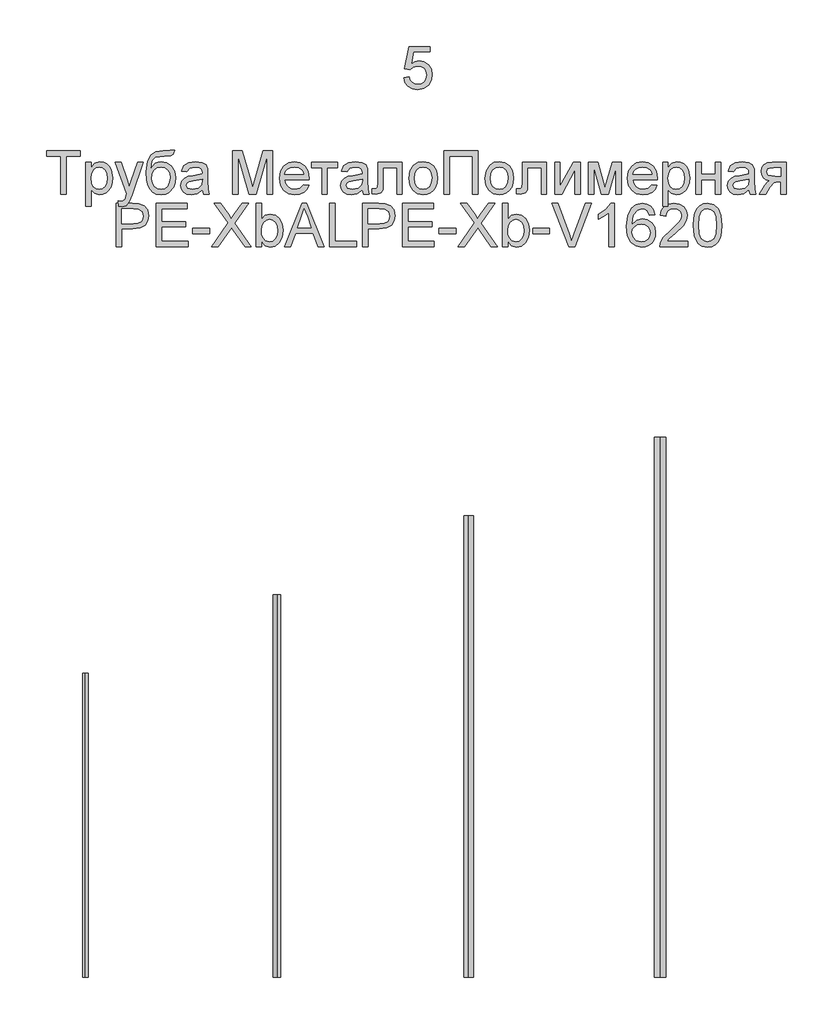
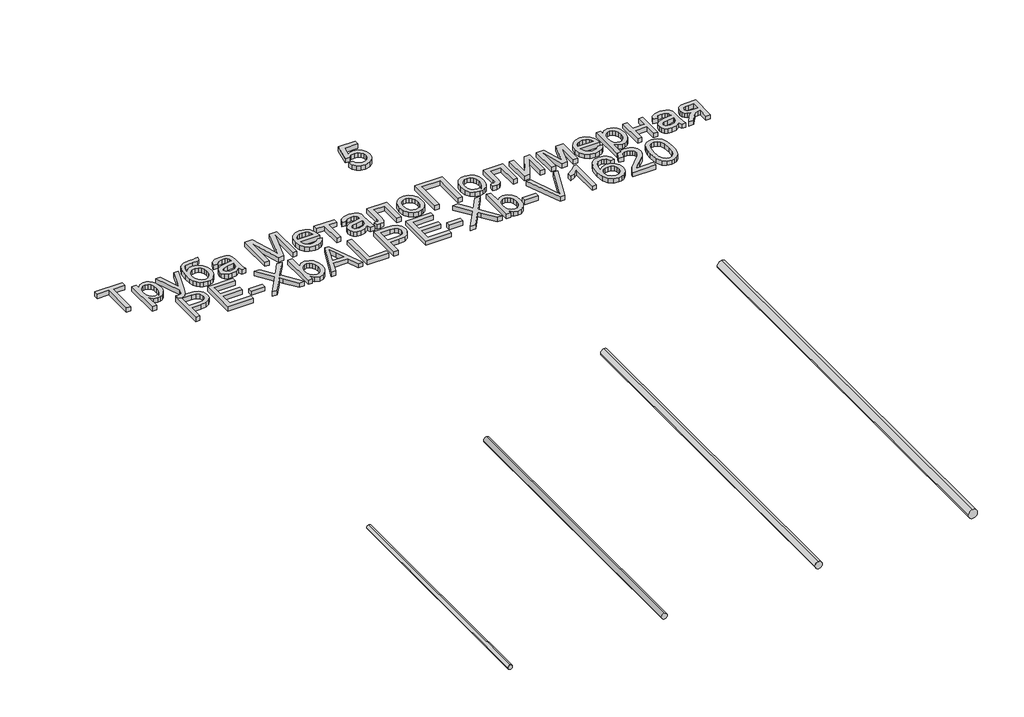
# One storey: 4 pipe segments, 1 proxy.
"""IFC4 building model written with IfcOpenShell, lengths in millimetres."""

import ifcopenshell
import ifcopenshell.guid

model = None  # the IFC model being written
_history = None  # IfcOwnerHistory: only IFC2X3 demands one
_inside = {}  # id of a spatial element -> (the spatial element, [elements in it])
_under = {}  # id of a project, library or spatial element -> (it, [spatial elements below it])
_declared = {}  # id of a project -> (the project, [libraries it declares])
_typed = {}  # id of a type object -> (the type object, [elements of that type])
_made_of = {}  # id of a material, layer set ... -> (it, [elements and type objects made of it])


def new_model(schema):
    """Start an empty IFC model of exactly this schema.

    Asked for "IFC4X3", IfcOpenShell would pick the latest addendum, in which some entities
    have other attributes; the version numbers below select the first issue.
    IFC2X3 requires an IfcOwnerHistory on every rooted entity: one is made here for all.
    """
    global model, _history
    if schema == "IFC4X3":
        model = ifcopenshell.file(schema_version=(4, 3, 0, 0))
    else:
        model = ifcopenshell.file(schema=schema)
    _inside.clear()
    _under.clear()
    _declared.clear()
    _typed.clear()
    _made_of.clear()
    _history = None
    if model.schema == "IFC2X3":
        org = make("IfcOrganization", Name="unknown")
        user = make(
            "IfcPersonAndOrganization",
            ThePerson=make("IfcPerson", FamilyName="unknown"),
            TheOrganization=org,
        )
        app = make(
            "IfcApplication",
            ApplicationDeveloper=org,
            Version="unknown",
            ApplicationFullName="unknown",
            ApplicationIdentifier="unknown",
        )
        _history = make(
            "IfcOwnerHistory",
            OwningUser=user,
            OwningApplication=app,
            ChangeAction="ADDED",
            CreationDate=0,
        )
    return model


def make(cls, **values):
    """One entity of the class cls with the attributes given. An attribute that is None is left unset."""
    return model.create_entity(
        cls, **{name: value for name, value in values.items() if value is not None}
    )


def rooted(cls, **values):
    """An entity with a GlobalId (a new one), such as an element, a storey or a relation."""
    return make(cls, GlobalId=ifcopenshell.guid.new(), OwnerHistory=_history, **values)


def si_unit(unit_type, name, prefix=None):
    """IfcSIUnit, for example si_unit("LENGTHUNIT", "METRE", prefix="MILLI")."""
    return make("IfcSIUnit", UnitType=unit_type, Prefix=prefix, Name=name)


def assignment(units):
    """IfcUnitAssignment: the units of a project."""
    return None if units is None else make("IfcUnitAssignment", Units=units)


def point(xyz):
    """IfcCartesianPoint."""
    return None if xyz is None else make("IfcCartesianPoint", Coordinates=xyz)


def direction(xyz):
    """IfcDirection."""
    return None if xyz is None else make("IfcDirection", DirectionRatios=xyz)


def frame(location, z_axis=None, x_axis=None):
    """IfcAxis2Placement3D, a coordinate frame: its origin and axes. An axis left out is left unset."""
    return make(
        "IfcAxis2Placement3D",
        Location=point(location),
        Axis=direction(z_axis),
        RefDirection=direction(x_axis),
    )


def frame_2d(location, x_axis=None):
    """IfcAxis2Placement2D, a coordinate frame in the plane: its origin and x axis."""
    return make(
        "IfcAxis2Placement2D", Location=point(location), RefDirection=direction(x_axis)
    )


def origin():
    """The frame at (0, 0, 0) with its axes left unset."""
    return frame((0.0, 0.0, 0.0))


def origin_with_axes():
    """The frame at (0, 0, 0) with the z axis (0, 0, 1) and the x axis (1, 0, 0) written out."""
    return frame((0.0, 0.0, 0.0), z_axis=(0.0, 0.0, 1.0), x_axis=(1.0, 0.0, 0.0))


def place(relative_to, where):
    """IfcLocalPlacement: puts the frame where relative to a parent placement (None: the world)."""
    return make(
        "IfcLocalPlacement", PlacementRelTo=relative_to, RelativePlacement=where
    )


def context(
    kind, dimensions, precision=None, world=None, true_north=None, identifier=None
):
    """IfcGeometricRepresentationContext, for example the 3D "Model" context."""
    return make(
        "IfcGeometricRepresentationContext",
        ContextIdentifier=identifier,
        ContextType=kind,
        CoordinateSpaceDimension=dimensions,
        Precision=precision,
        WorldCoordinateSystem=world,
        TrueNorth=true_north,
    )


def project(units=None, contexts=None):
    """IfcProject with its units and contexts."""
    return rooted(
        "IfcProject",
        Name="project",
        RepresentationContexts=contexts,
        UnitsInContext=assignment(units),
    )


def spatial(cls, under=None, at=None, **own):
    """A site, building, storey or space (cls), placed at a placement, below another one or the project."""
    s = rooted(cls, ObjectPlacement=at, **own)
    if under is not None:
        _under.setdefault(under.id(), (under, []))[1].append(s)
    return s


def polyline(points):
    """IfcPolyline through the points."""
    return make("IfcPolyline", Points=[point(p) for p in points])


def circle_curve(where, radius):
    """IfcCircle in the frame where."""
    return make("IfcCircle", Position=where, Radius=radius)


def trimmed(basis, trim1, trim2, sense, master):
    """IfcTrimmedCurve: the piece of a basis curve between two trims."""
    return make(
        "IfcTrimmedCurve",
        BasisCurve=basis,
        Trim1=trim1,
        Trim2=trim2,
        SenseAgreement=sense,
        MasterRepresentation=master,
    )


def segment(curve, same_sense, transition):
    """IfcCompositeCurveSegment."""
    return make(
        "IfcCompositeCurveSegment",
        Transition=transition,
        SameSense=same_sense,
        ParentCurve=curve,
    )


def composite_curve(segments, self_intersect=None):
    """IfcCompositeCurve: segments joined end to end."""
    return make("IfcCompositeCurve", Segments=segments, SelfIntersect=self_intersect)


def outline(outer, holes=None, kind="AREA"):
    """IfcArbitraryClosedProfileDef: a profile drawn as a closed curve; with holes, ...WithVoids."""
    if holes is None:
        return make("IfcArbitraryClosedProfileDef", ProfileType=kind, OuterCurve=outer)
    return make(
        "IfcArbitraryProfileDefWithVoids",
        ProfileType=kind,
        OuterCurve=outer,
        InnerCurves=holes,
    )


def extrude(swept, where, along, depth):
    """IfcExtrudedAreaSolid: the profile swept, set in the frame where, extruded along a direction by depth."""
    return make(
        "IfcExtrudedAreaSolid",
        SweptArea=swept,
        Position=where,
        ExtrudedDirection=direction(along),
        Depth=depth,
    )


def shape(context_of_items, identifier, shape_type, items):
    """IfcShapeRepresentation: the items that make up one representation, for example the "Body"."""
    return make(
        "IfcShapeRepresentation",
        ContextOfItems=context_of_items,
        RepresentationIdentifier=identifier,
        RepresentationType=shape_type,
        Items=items,
    )


def made_of(thing, what):
    """Note that an element or type object is made of a material, layer set ...; save() writes the relation."""
    if what is not None:
        _made_of.setdefault(what.id(), (what, []))[1].append(thing)
    return thing


def element(
    cls,
    number,
    at=None,
    inside=None,
    cuts=None,
    type_object=None,
    material=None,
    context=None,
    identifier="Body",
    shape_type=None,
    held_by="IfcProductDefinitionShape",
    body=None,
    shapes=None,
    **own,
):
    """One element of the class cls, such as IfcWall. Its Tag is "e" and its number.

    at: its placement. inside: the storey or other place that contains it. cuts: it is an
    opening in that element (IfcRelVoidsElement). A single representation is given by context,
    identifier, shape_type and body (its items); several are given by shapes. held_by: the class
    of the entity that holds the representations. save() writes the other relations.
    """
    e = rooted(cls, Tag="e%d" % number, ObjectPlacement=at, **own)
    if body is not None:
        shapes = [shape(context, identifier, shape_type, body)]
    if shapes is not None:
        e.Representation = make(held_by, Representations=shapes)
    if inside is not None:
        _inside.setdefault(inside.id(), (inside, []))[1].append(e)
    if cuts is not None:
        rooted(
            "IfcRelVoidsElement", RelatingBuildingElement=cuts, RelatedOpeningElement=e
        )
    if type_object is not None:
        _typed.setdefault(type_object.id(), (type_object, []))[1].append(e)
    return made_of(e, material)


def aggregate(whole, parts):
    """IfcRelAggregates: a whole, such as a stair, and the parts it consists of."""
    return rooted("IfcRelAggregates", RelatingObject=whole, RelatedObjects=parts)


def save(model, path):
    """Write the relations noted so far, then the file.

    IfcRelAggregates (storeys below a building ...), IfcRelContainedInSpatialStructure (elements
    in a storey), IfcRelDefinesByType, IfcRelAssociatesMaterial and IfcRelDeclares: one each for
    every whole, place, type object, material and project.
    """
    for whole, parts in _under.values():
        aggregate(whole, parts)
    for where, things in _inside.values():
        rooted(
            "IfcRelContainedInSpatialStructure",
            RelatedElements=things,
            RelatingStructure=where,
        )
    for kind, things in _typed.values():
        rooted("IfcRelDefinesByType", RelatedObjects=things, RelatingType=kind)
    for what, things in _made_of.values():
        rooted("IfcRelAssociatesMaterial", RelatedObjects=things, RelatingMaterial=what)
    for by, libraries in _declared.values():
        rooted("IfcRelDeclares", RelatingContext=by, RelatedDefinitions=libraries)
    model.write(path)


model = new_model("IFC4")

# Units and contexts
model_context = context("Model", 3, world=origin())
ifc_project = project(units=[si_unit("LENGTHUNIT", "METRE", prefix="MILLI")], contexts=[model_context])

# Site, building, storey
site = spatial("IfcSite", under=ifc_project)
building = spatial("IfcBuilding", under=site)
storey = spatial("IfcBuildingStorey", under=building, Name="Этаж 01", Elevation=0.0)

# Proxy
placement = place(None, origin())
element("IfcBuildingElementProxy", 1, Name="-", ObjectType="-", at=placement, inside=storey, context=model_context, shape_type="SweptSolid", body=[
    extrude(outline(polyline([(1130.7345209, 3137.5586063), (1149.570079, 3139.9130511), (1153.0281698, 3128.6052783), (1159.0614345, 3120.5072758), (1167.642282, 3115.6374379), (1178.7431212, 3114.0141586), (1192.2443905, 3116.2720344), (1202.3611453, 3123.0456616), (1208.6795186, 3133.5532911), (1210.785643, 3147.0131736), (1208.8128758, 3159.6867083), (1202.8945742, 3169.3803989), (1192.984753, 3175.5332253), (1179.0374268, 3177.5841674), (1162.5011311, 3174.3100176), (1151.9245238, 3165.8119436), (1133.0889656, 3168.1663883), (1149.570079, 3245.8630657), (1222.5578669, 3245.8630657), (1222.5578669, 3227.0275076), (1164.8003936, 3227.0275076), (1156.7437779, 3185.5304185), (1170.1990619, 3193.6973988), (1184.2981394, 3196.4197256), (1201.8966943, 3193.0444082), (1216.506208, 3182.9184563), (1226.3424529, 3167.4858066), (1229.6212012, 3148.190396), (1226.6689482, 3129.3548378), (1217.8121891, 3113.2416064), (1200.8528291, 3099.694352), (1178.6695448, 3095.1786005), (1160.169679, 3098.0802697), (1145.4314066, 3106.7852774), (1135.3284473, 3120.2819481), (1130.7345209, 3137.5586063)])), origin_with_axes(), (0.0, 0.0, 1.0), 20.0),
    extrude(outline(polyline([(-66.5006442, 2731.6085917), (-66.5006442, 2863.4574988), (-115.9439844, 2863.4574988), (-115.9439844, 2882.2930569), (1.7782541, 2882.2930569), (1.7782541, 2863.4574988), (-47.6650861, 2863.4574988), (-47.6650861, 2731.6085917), (-66.5006442, 2731.6085917)])), origin_with_axes(), (0.0, 0.0, 1.0), 20.0),
    extrude(outline(polyline([(20.6138122, 2689.2285859), (20.6138122, 2842.2674959), (39.4493704, 2842.2674959), (39.4493704, 2823.7998197), (52.472393, 2839.4164104), (70.0571524, 2844.6219406), (82.7950665, 2842.8009248), (93.9326939, 2837.3378771), (103.000985, 2828.5638915), (109.5308904, 2816.8100618), (114.791603, 2787.7841724), (113.3062794, 2771.6755395), (108.8503088, 2757.2683609), (101.5662453, 2745.2938019), (91.5966432, 2736.4830281), (79.9853677, 2731.0613672), (67.776284, 2729.2541469), (51.3871411, 2734.0917952), (39.4493704, 2746.3238715), (39.4493704, 2689.2285859), (20.6138122, 2689.2285859)]), holes=[polyline([(39.4493704, 2786.055127), (41.4865169, 2769.1693434), (47.5979566, 2757.3603314), (56.615664, 2750.4073617), (67.3716138, 2748.0897051), (78.3023076, 2750.4901351), (87.5499412, 2757.6914252), (93.8545189, 2769.9326986), (95.9560448, 2787.4530786), (93.9051027, 2804.2468917), (87.7522763, 2816.2214506), (78.7483645, 2823.3951495), (68.144166, 2825.7863825), (57.4985808, 2823.2433982), (48.1497796, 2815.6144453), (41.6244727, 2803.1386471), (39.4493704, 2786.055127)])]), origin_with_axes(), (0.0, 0.0, 1.0), 20.0),
    extrude(outline(polyline([(135.9816059, 2689.2285859), (133.6271611, 2707.3651682), (143.192093, 2705.7096993), (152.1316255, 2707.7882325), (157.6130672, 2713.5823739), (162.7634152, 2727.4515252), (164.2349431, 2732.0132619), (124.2093821, 2842.2674959), (144.0750098, 2842.2674959), (165.3018009, 2780.8312027), (172.696229, 2756.2566854), (180.0906571, 2777.9617231), (201.9060594, 2842.2674959), (221.6245344, 2842.2674959), (183.1072895, 2728.9598413), (173.1008992, 2704.3853241), (162.174804, 2691.104784), (147.4963124, 2686.8741411), (135.9816059, 2689.2285859)])), origin_with_axes(), (0.0, 0.0, 1.0), 20.0),
    extrude(outline(polyline([(314.9194084, 2884.6475017), (331.4005217, 2884.6475017), (326.5444794, 2869.950616), (316.9427593, 2864.6347212), (293.8765582, 2863.4574988), (262.8089237, 2859.1164912), (255.6812101, 2853.4695026), (250.8895471, 2845.2105518), (246.8612392, 2820.5992463), (263.1768057, 2838.6254641), (273.095824, 2843.1228215), (284.2012618, 2844.6219406), (303.8001751, 2840.8097635), (319.7018743, 2829.3732319), (330.2416935, 2811.4343861), (333.7549665, 2788.1152662), (332.0121256, 2770.1350337), (326.7836027, 2755.7048624), (310.247307, 2736.1519344), (298.9533298, 2730.9785938), (284.2012618, 2729.2541469), (267.2005151, 2731.4752345), (254.4580024, 2738.1384971), (245.0816101, 2748.264449), (238.1792242, 2760.8736044), (233.9301871, 2779.8609139), (232.5138414, 2809.1213281), (236.0868953, 2845.2611356), (246.806057, 2867.3018656), (264.9380408, 2878.5452591), (290.7495613, 2882.2930569), (311.718835, 2882.7161212), (314.9194084, 2884.6475017)]), holes=[polyline([(314.9194084, 2788.7038774), (312.8776633, 2803.5249232), (306.7524281, 2815.3937161), (296.9115847, 2823.1882159), (283.7230152, 2825.7863825), (269.9734256, 2823.0410631), (259.7738973, 2814.8051049), (253.455524, 2801.9798189), (251.3493996, 2785.4665158), (253.6762532, 2769.4590505), (260.6568141, 2757.7098193), (271.0494804, 2750.4947336), (283.6126506, 2748.0897051), (296.2402001, 2750.8718127), (306.2373933, 2759.2181355), (312.7489046, 2772.1537861), (314.9194084, 2788.7038774)])]), origin_with_axes(), (0.0, 0.0, 1.0), 20.0),
    extrude(outline(polyline([(427.9327573, 2745.7352603), (409.6674162, 2732.9697551), (389.4890888, 2729.2541469), (373.7483379, 2731.4890301), (362.1370624, 2738.1936794), (354.9771591, 2748.3748136), (352.5905247, 2761.0391513), (356.1957682, 2775.9383721), (365.6687296, 2786.7541028), (378.8572991, 2792.9345203), (395.1544715, 2795.7672117), (427.8223927, 2802.2419348), (427.9327573, 2806.4357895), (426.6359732, 2814.8418931), (422.7456211, 2820.3417289), (414.045212, 2824.4252191), (401.9235002, 2825.7863825), (382.8672129, 2822.1627448), (373.7805276, 2809.3052691), (354.9449694, 2811.6597139), (363.0935556, 2830.0538136), (379.5010926, 2840.8327561), (404.3515214, 2844.6219406), (427.1785992, 2841.2742145), (440.0728631, 2832.8681109), (445.8486104, 2820.0842116), (446.7683154, 2803.6030982), (446.7683154, 2780.1690151), (447.7248086, 2747.4459116), (451.477205, 2731.6085917), (432.6416468, 2731.6085917), (427.9327573, 2745.7352603)]), holes=[polyline([(427.9327573, 2783.4063766), (397.5457045, 2777.6306293), (381.3405026, 2774.5772087), (374.0012568, 2769.6108018), (371.4260828, 2762.3635265), (377.0362832, 2752.1731952), (393.4990025, 2748.0897051), (412.5552899, 2752.5962595), (424.8425485, 2763.5039607), (427.8223927, 2778.0720877), (427.9327573, 2783.4063766)])]), origin_with_axes(), (0.0, 0.0, 1.0), 20.0),
    extrude(outline(polyline([(533.8827719, 2731.6085917), (533.8827719, 2882.2930569), (566.2931757, 2882.2930569), (597.1216869, 2776.0855249), (603.3388926, 2753.9022406), (610.0711331, 2777.9249349), (640.3846095, 2882.2930569), (672.7950133, 2882.2930569), (672.7950133, 2731.6085917), (653.9594551, 2731.6085917), (653.9594551, 2863.4574988), (616.1043978, 2731.6085917), (590.5733873, 2731.6085917), (552.71833, 2863.4574988), (552.71833, 2731.6085917), (533.8827719, 2731.6085917)])), origin_with_axes(), (0.0, 0.0, 1.0), 20.0),
    extrude(outline(polyline([(780.8787434, 2764.5708185), (799.3464196, 2762.2163737), (792.692354, 2748.3012372), (782.0743599, 2737.8993738), (767.7315606, 2731.4154537), (749.9030795, 2729.2541469), (727.8025686, 2732.9835507), (710.7972234, 2744.1717618), (699.9539016, 2762.0922135), (696.339461, 2786.0183388), (699.9906898, 2810.7492059), (710.9443762, 2829.2444732), (727.7197951, 2840.7775738), (748.8362217, 2844.6219406), (769.2950591, 2840.7867708), (785.6428153, 2829.2812614), (796.3619769, 2810.8227823), (799.9350308, 2786.1287034), (799.8246662, 2781.0519319), (715.1750191, 2781.0519319), (718.4353733, 2766.9528544), (726.0091439, 2756.5877792), (736.9398376, 2750.2142236), (750.2709614, 2748.0897051), (768.7386376, 2752.0260424), (780.8787434, 2764.5708185)]), holes=[polyline([(715.1750191, 2799.88749), (781.0994726, 2799.88749), (778.5518898, 2809.838698), (773.5578917, 2816.9572146), (762.5766142, 2823.5790905), (748.7626453, 2825.7863825), (736.0661179, 2824.0251474), (725.5676855, 2818.7414423), (718.2698264, 2810.5054841), (715.1750191, 2799.88749)])]), origin_with_axes(), (0.0, 0.0, 1.0), 20.0),
    extrude(outline(polyline([(809.3528099, 2842.2674959), (898.8217111, 2842.2674959), (898.8217111, 2823.4319377), (863.5050396, 2823.4319377), (863.5050396, 2731.6085917), (844.6694814, 2731.6085917), (844.6694814, 2823.4319377), (809.3528099, 2823.4319377), (809.3528099, 2842.2674959)])), origin_with_axes(), (0.0, 0.0, 1.0), 20.0),
    extrude(outline(polyline([(985.9361676, 2745.7352603), (967.6708265, 2732.9697551), (947.4924991, 2729.2541469), (931.7517482, 2731.4890301), (920.1404727, 2738.1936794), (912.9805694, 2748.3748136), (910.5939349, 2761.0391513), (914.1991785, 2775.9383721), (923.6721399, 2786.7541028), (936.8607094, 2792.9345203), (953.1578818, 2795.7672117), (985.825803, 2802.2419348), (985.9361676, 2806.4357895), (984.6393835, 2814.8418931), (980.7490314, 2820.3417289), (972.0486222, 2824.4252191), (959.9269105, 2825.7863825), (940.8706232, 2822.1627448), (931.7839379, 2809.3052691), (912.9483797, 2811.6597139), (921.0969659, 2830.0538136), (937.5045029, 2840.8327561), (962.3549317, 2844.6219406), (985.1820095, 2841.2742145), (998.0762734, 2832.8681109), (1003.8520207, 2820.0842116), (1004.7717257, 2803.6030982), (1004.7717257, 2780.1690151), (1005.7282189, 2747.4459116), (1009.4806153, 2731.6085917), (990.6450571, 2731.6085917), (985.9361676, 2745.7352603)]), holes=[polyline([(985.9361676, 2783.4063766), (955.5491148, 2777.6306293), (939.3439129, 2774.5772087), (932.0046671, 2769.6108018), (929.4294931, 2762.3635265), (935.0396935, 2752.1731952), (951.5024128, 2748.0897051), (970.5587002, 2752.5962595), (982.8459588, 2763.5039607), (985.825803, 2778.0720877), (985.9361676, 2783.4063766)])]), origin_with_axes(), (0.0, 0.0, 1.0), 20.0),
    extrude(outline(polyline([(1040.0883972, 2842.2674959), (1124.8484089, 2842.2674959), (1124.8484089, 2731.7189563), (1106.0128508, 2731.7189563), (1106.0128508, 2823.4319377), (1058.9239554, 2823.4319377), (1058.9239554, 2770.6408714), (1057.6547625, 2746.2870833), (1050.6833987, 2736.0047816), (1034.2022853, 2731.6085917), (1018.8983943, 2732.5650849), (1018.8983943, 2750.4441499), (1027.322892, 2750.4441499), (1035.8393602, 2751.6029782), (1039.2422687, 2755.2817981), (1040.0883972, 2771.7077292), (1040.0883972, 2842.2674959)])), origin_with_axes(), (0.0, 0.0, 1.0), 20.0),
    extrude(outline(polyline([(1148.3928566, 2786.9380438), (1152.4671497, 2813.6186855), (1164.690029, 2832.3714702), (1179.7915849, 2841.559323), (1197.872985, 2844.6219406), (1217.6604378, 2840.8925369), (1233.465568, 2829.7043257), (1243.8260447, 2811.9402239), (1247.2795369, 2788.4831482), (1245.7528267, 2769.454452), (1241.1726958, 2754.9690984), (1233.6725016, 2744.1211781), (1223.3856013, 2736.0047816), (1211.1673206, 2730.9418056), (1197.872985, 2729.2541469), (1177.8464089, 2732.9697551), (1162.0596728, 2744.1165795), (1151.8095607, 2762.2531619), (1148.3928566, 2786.9380438)]), holes=[polyline([(1167.2284148, 2786.974832), (1169.4081156, 2769.9281), (1175.9472181, 2757.7833957), (1185.7880614, 2750.5131277), (1197.872985, 2748.0897051), (1209.9027262, 2750.5269233), (1219.7251755, 2757.838578), (1226.264278, 2770.1442307), (1228.4439788, 2787.5634432), (1226.2504824, 2804.1135344), (1219.6699932, 2816.0926919), (1209.8337483, 2823.3629598), (1197.872985, 2825.7863825), (1185.7880614, 2823.3721569), (1175.9472181, 2816.1294801), (1169.4081156, 2804.0123669), (1167.2284148, 2786.974832)])]), origin_with_axes(), (0.0, 0.0, 1.0), 20.0),
    extrude(outline(polyline([(1270.8239846, 2882.2930569), (1388.5462231, 2882.2930569), (1388.5462231, 2731.6085917), (1369.7106649, 2731.6085917), (1369.7106649, 2863.4574988), (1289.6595428, 2863.4574988), (1289.6595428, 2731.6085917), (1270.8239846, 2731.6085917), (1270.8239846, 2882.2930569)])), origin_with_axes(), (0.0, 0.0, 1.0), 20.0),
    extrude(outline(polyline([(1414.4451155, 2786.9380438), (1418.5194086, 2813.6186855), (1430.7422879, 2832.3714702), (1445.8438438, 2841.559323), (1463.9252439, 2844.6219406), (1483.7126967, 2840.8925369), (1499.5178269, 2829.7043257), (1509.8783036, 2811.9402239), (1513.3317958, 2788.4831482), (1511.8050856, 2769.454452), (1507.2249547, 2754.9690984), (1499.7247605, 2744.1211781), (1489.4378603, 2736.0047816), (1477.2195795, 2730.9418056), (1463.9252439, 2729.2541469), (1443.8986678, 2732.9697551), (1428.1119317, 2744.1165795), (1417.8618196, 2762.2531619), (1414.4451155, 2786.9380438)]), holes=[polyline([(1433.2806737, 2786.974832), (1435.4603745, 2769.9281), (1441.999477, 2757.7833957), (1451.8403204, 2750.5131277), (1463.9252439, 2748.0897051), (1475.9549851, 2750.5269233), (1485.7774344, 2757.838578), (1492.3165369, 2770.1442307), (1494.4962377, 2787.5634432), (1492.3027413, 2804.1135344), (1485.7222521, 2816.0926919), (1475.8860073, 2823.3629598), (1463.9252439, 2825.7863825), (1451.8403204, 2823.3721569), (1441.999477, 2816.1294801), (1435.4603745, 2804.0123669), (1433.2806737, 2786.974832)])]), origin_with_axes(), (0.0, 0.0, 1.0), 20.0),
    extrude(outline(polyline([(1543.9395778, 2842.2674959), (1628.6995895, 2842.2674959), (1628.6995895, 2731.7189563), (1609.8640314, 2731.7189563), (1609.8640314, 2823.4319377), (1562.775136, 2823.4319377), (1562.775136, 2770.6408714), (1561.5059431, 2746.2870833), (1554.5345793, 2736.0047816), (1538.0534659, 2731.6085917), (1522.7495749, 2732.5650849), (1522.7495749, 2750.4441499), (1531.1740726, 2750.4441499), (1539.6905408, 2751.6029782), (1543.0934493, 2755.2817981), (1543.9395778, 2771.7077292), (1543.9395778, 2842.2674959)])), origin_with_axes(), (0.0, 0.0, 1.0), 20.0),
    extrude(outline(polyline([(1656.9529268, 2842.2674959), (1675.7884849, 2842.2674959), (1675.7884849, 2757.8753662), (1722.0680399, 2842.2674959), (1746.421828, 2842.2674959), (1746.421828, 2731.6085917), (1727.5862698, 2731.6085917), (1727.5862698, 2815.4856866), (1681.6010204, 2731.6085917), (1656.9529268, 2731.6085917), (1656.9529268, 2842.2674959)])), origin_with_axes(), (0.0, 0.0, 1.0), 20.0),
    extrude(outline(polyline([(1774.6751652, 2842.2674959), (1807.085569, 2842.2674959), (1832.0647565, 2753.6815114), (1858.9937185, 2842.2674959), (1890.0429589, 2842.2674959), (1890.0429589, 2731.6085917), (1871.2074008, 2731.6085917), (1871.2074008, 2820.7096109), (1844.1312859, 2731.6085917), (1819.4096158, 2731.6085917), (1793.5107234, 2824.9770421), (1793.5107234, 2731.6085917), (1774.6751652, 2731.6085917), (1774.6751652, 2842.2674959)])), origin_with_axes(), (0.0, 0.0, 1.0), 20.0),
    extrude(outline(polyline([(1995.7722443, 2764.5708185), (2014.2399205, 2762.2163737), (2007.5858549, 2748.3012372), (1996.9678608, 2737.8993738), (1982.6250615, 2731.4154537), (1964.7965803, 2729.2541469), (1942.6960695, 2732.9835507), (1925.6907242, 2744.1717618), (1914.8474024, 2762.0922135), (1911.2329618, 2786.0183388), (1914.8841906, 2810.7492059), (1925.837877, 2829.2444732), (1942.613296, 2840.7775738), (1963.7297225, 2844.6219406), (1984.18856, 2840.7867708), (2000.5363162, 2829.2812614), (2011.2554778, 2810.8227823), (2014.8285317, 2786.1287034), (2014.7181671, 2781.0519319), (1930.06852, 2781.0519319), (1933.3288742, 2766.9528544), (1940.9026447, 2756.5877792), (1951.8333385, 2750.2142236), (1965.1644623, 2748.0897051), (1983.6321385, 2752.0260424), (1995.7722443, 2764.5708185)]), holes=[polyline([(1930.06852, 2799.88749), (1995.9929735, 2799.88749), (1993.4453907, 2809.838698), (1988.4513926, 2816.9572146), (1977.4701151, 2823.5790905), (1963.6561461, 2825.7863825), (1950.9596188, 2824.0251474), (1940.4611863, 2818.7414423), (1933.1633273, 2810.5054841), (1930.06852, 2799.88749)])]), origin_with_axes(), (0.0, 0.0, 1.0), 20.0),
    extrude(outline(polyline([(2033.6640898, 2689.2285859), (2033.6640898, 2842.2674959), (2052.499648, 2842.2674959), (2052.499648, 2823.7998197), (2065.5226706, 2839.4164104), (2083.10743, 2844.6219406), (2095.8453441, 2842.8009248), (2106.9829715, 2837.3378771), (2116.0512626, 2828.5638915), (2122.5811681, 2816.8100618), (2127.8418806, 2787.7841724), (2126.356557, 2771.6755395), (2121.9005864, 2757.2683609), (2114.6165229, 2745.2938019), (2104.6469208, 2736.4830281), (2093.0356453, 2731.0613672), (2080.8265616, 2729.2541469), (2064.4374187, 2734.0917952), (2052.499648, 2746.3238715), (2052.499648, 2689.2285859), (2033.6640898, 2689.2285859)]), holes=[polyline([(2052.499648, 2786.055127), (2054.5367945, 2769.1693434), (2060.6482342, 2757.3603314), (2069.6659416, 2750.4073617), (2080.4218914, 2748.0897051), (2091.3525852, 2750.4901351), (2100.6002188, 2757.6914252), (2106.9047965, 2769.9326986), (2109.0063224, 2787.4530786), (2106.9553803, 2804.2468917), (2100.8025539, 2816.2214506), (2091.7986421, 2823.3951495), (2081.1944436, 2825.7863825), (2070.5488584, 2823.2433982), (2061.2000572, 2815.6144453), (2054.6747503, 2803.1386471), (2052.499648, 2786.055127)])]), origin_with_axes(), (0.0, 0.0, 1.0), 20.0),
    extrude(outline(polyline([(2149.0318835, 2842.2674959), (2167.8674417, 2842.2674959), (2167.8674417, 2799.88749), (2217.3107818, 2799.88749), (2217.3107818, 2842.2674959), (2236.14634, 2842.2674959), (2236.14634, 2731.6085917), (2217.3107818, 2731.6085917), (2217.3107818, 2781.0519319), (2167.8674417, 2781.0519319), (2167.8674417, 2731.6085917), (2149.0318835, 2731.6085917), (2149.0318835, 2842.2674959)])), origin_with_axes(), (0.0, 0.0, 1.0), 20.0),
    extrude(outline(polyline([(2335.0330203, 2745.7352603), (2316.7676792, 2732.9697551), (2296.5893518, 2729.2541469), (2280.8486009, 2731.4890301), (2269.2373254, 2738.1936794), (2262.0774221, 2748.3748136), (2259.6907877, 2761.0391513), (2263.2960312, 2775.9383721), (2272.7689926, 2786.7541028), (2285.9575621, 2792.9345203), (2302.2547345, 2795.7672117), (2334.9226557, 2802.2419348), (2335.0330203, 2806.4357895), (2333.7362362, 2814.8418931), (2329.8458841, 2820.3417289), (2321.145475, 2824.4252191), (2309.0237632, 2825.7863825), (2289.9674759, 2822.1627448), (2280.8807906, 2809.3052691), (2262.0452324, 2811.6597139), (2270.1938186, 2830.0538136), (2286.6013556, 2840.8327561), (2311.4517844, 2844.6219406), (2334.2788622, 2841.2742145), (2347.1731261, 2832.8681109), (2352.9488734, 2820.0842116), (2353.8685784, 2803.6030982), (2353.8685784, 2780.1690151), (2354.8250716, 2747.4459116), (2358.577468, 2731.6085917), (2339.7419098, 2731.6085917), (2335.0330203, 2745.7352603)]), holes=[polyline([(2335.0330203, 2783.4063766), (2304.6459675, 2777.6306293), (2288.4407656, 2774.5772087), (2281.1015198, 2769.6108018), (2278.5263458, 2762.3635265), (2284.1365462, 2752.1731952), (2300.5992655, 2748.0897051), (2319.6555529, 2752.5962595), (2331.9428115, 2763.5039607), (2334.9226557, 2778.0720877), (2335.0330203, 2783.4063766)])]), origin_with_axes(), (0.0, 0.0, 1.0), 20.0),
    extrude(outline(polyline([(2464.5274826, 2842.2674959), (2464.5274826, 2731.6085917), (2445.6919244, 2731.6085917), (2445.6919244, 2773.9885976), (2435.4280168, 2773.9885976), (2421.4485009, 2771.5973646), (2408.3151137, 2755.5209214), (2393.3055283, 2731.6085917), (2371.5269142, 2731.6085917), (2390.4360487, 2761.8484917), (2398.78697, 2772.7010106), (2406.4757037, 2777.5202647), (2393.5998339, 2781.4657991), (2384.5499368, 2788.9613948), (2379.1972538, 2798.9309968), (2377.4130261, 2810.2985505), (2379.8502443, 2823.1928144), (2387.161899, 2833.4015398), (2399.0904727, 2840.0510068), (2415.378448, 2842.2674959), (2464.5274826, 2842.2674959)]), holes=[polyline([(2445.6919244, 2823.4319377), (2420.8598897, 2823.4319377), (2408.0346037, 2822.3420873), (2400.7551387, 2819.0725361), (2396.2485843, 2808.8638107), (2397.9086518, 2801.6855133), (2402.8888543, 2796.7053108), (2426.4149079, 2792.8241557), (2445.6919244, 2792.8241557), (2445.6919244, 2823.4319377)])]), origin_with_axes(), (0.0, 0.0, 1.0), 20.0),
    extrude(outline(polyline([(127.7410492, 2548.6463649), (127.7410492, 2699.3308302), (183.5855361, 2699.3308302), (206.0999142, 2697.8960904), (224.4020434, 2690.8511502), (236.2662378, 2676.2830232), (240.7543981, 2655.7368137), (237.7239702, 2637.9773104), (228.6326864, 2623.1792572), (211.6319397, 2613.191261), (184.8731231, 2609.8619289), (146.5766074, 2609.8619289), (146.5766074, 2548.6463649), (127.7410492, 2548.6463649)]), holes=[polyline([(146.5766074, 2628.6974871), (185.976769, 2628.6974871), (202.6786116, 2630.4265325), (213.7150715, 2635.6136686), (219.8678979, 2643.9369987), (221.91884, 2655.0746261), (217.0811917, 2670.6728227), (204.3708688, 2679.207685), (185.5353107, 2680.495272), (146.5766074, 2680.495272), (146.5766074, 2628.6974871)])]), origin_with_axes(), (0.0, 0.0, 1.0), 20.0),
    extrude(outline(polyline([(266.6532906, 2548.6463649), (266.6532906, 2699.3308302), (374.95775, 2699.3308302), (374.95775, 2680.495272), (285.4888487, 2680.495272), (285.4888487, 2635.7608214), (370.2488604, 2635.7608214), (370.2488604, 2616.9252632), (285.4888487, 2616.9252632), (285.4888487, 2567.4819231), (377.3121947, 2567.4819231), (377.3121947, 2548.6463649), (266.6532906, 2548.6463649)])), origin_with_axes(), (0.0, 0.0, 1.0), 20.0),
    extrude(outline(polyline([(393.7933081, 2593.3808156), (393.7933081, 2612.2163737), (452.6544274, 2612.2163737), (452.6544274, 2593.3808156), (393.7933081, 2593.3808156)])), origin_with_axes(), (0.0, 0.0, 1.0), 20.0),
    extrude(outline(polyline([(459.7177617, 2548.6463649), (517.8063287, 2630.7576263), (469.1355407, 2699.3308302), (491.7234952, 2699.3308302), (519.1307039, 2660.7400089), (528.364542, 2645.6936353), (539.1802726, 2660.9975263), (566.2931757, 2699.3308302), (589.212224, 2699.3308302), (540.541436, 2630.5368971), (598.630003, 2548.6463649), (576.0420485, 2548.6463649), (537.3408626, 2603.240053), (529.2842469, 2614.5708185), (520.4182909, 2602.136407), (482.63681, 2548.6463649), (459.7177617, 2548.6463649)])), origin_with_axes(), (0.0, 0.0, 1.0), 20.0),
    extrude(outline(polyline([(633.9466746, 2548.6463649), (615.1111164, 2548.6463649), (615.1111164, 2699.3308302), (633.9466746, 2699.3308302), (633.9466746, 2643.4495551), (647.1352441, 2657.1071742), (663.524387, 2661.6597139), (682.3967333, 2657.5578296), (697.0384367, 2646.0247291), (706.0331515, 2628.0904818), (709.2889072, 2605.631286), (705.9181884, 2580.4865516), (695.8060321, 2561.7797522), (680.9665921, 2550.1638782), (663.4140224, 2546.2919202), (646.6661946, 2551.2859183), (633.9466746, 2566.2679125), (633.9466746, 2548.6463649)]), holes=[polyline([(633.9466746, 2604.7483692), (635.2342616, 2589.039808), (639.0970225, 2578.4080184), (648.965457, 2568.4476133), (661.7953416, 2565.1274783), (672.6662546, 2567.5738936), (681.9552749, 2574.9131394), (688.3288305, 2587.0992305), (690.453349, 2604.0861816), (688.4162025, 2621.3214531), (682.3047628, 2633.3695884), (673.3054495, 2640.4605139), (662.604682, 2642.8241557), (651.733769, 2640.3777404), (642.4447487, 2633.0384946), (636.0711931, 2621.0731327), (633.9466746, 2604.7483692)])]), origin_with_axes(), (0.0, 0.0, 1.0), 20.0),
    extrude(outline(polyline([(715.2853837, 2548.6463649), (775.4340899, 2699.3308302), (791.4737449, 2699.3308302), (851.6224511, 2548.6463649), (831.7200352, 2548.6463649), (814.4663696, 2595.7352603), (752.404677, 2595.7352603), (735.1877996, 2548.6463649), (715.2853837, 2548.6463649)]), holes=[polyline([(759.3208585, 2614.5708185), (807.5869763, 2614.5708185), (794.0121307, 2651.6165354), (783.4539174, 2680.495272), (774.0729265, 2654.853897), (759.3208585, 2614.5708185)])]), origin_with_axes(), (0.0, 0.0, 1.0), 20.0),
    extrude(outline(polyline([(871.7455963, 2548.6463649), (871.7455963, 2699.3308302), (890.5811544, 2699.3308302), (890.5811544, 2567.4819231), (965.923387, 2567.4819231), (965.923387, 2548.6463649), (871.7455963, 2548.6463649)])), origin_with_axes(), (0.0, 0.0, 1.0), 20.0),
    extrude(outline(polyline([(987.1133899, 2548.6463649), (987.1133899, 2699.3308302), (1042.9578768, 2699.3308302), (1065.4722549, 2697.8960904), (1083.7743842, 2690.8511502), (1095.6385785, 2676.2830232), (1100.1267389, 2655.7368137), (1097.0963109, 2637.9773104), (1088.0050271, 2623.1792572), (1071.0042804, 2613.191261), (1044.2454638, 2609.8619289), (1005.9489481, 2609.8619289), (1005.9489481, 2548.6463649), (987.1133899, 2548.6463649)]), holes=[polyline([(1005.9489481, 2628.6974871), (1045.3491098, 2628.6974871), (1062.0509524, 2630.4265325), (1073.0874122, 2635.6136686), (1079.2402386, 2643.9369987), (1081.2911807, 2655.0746261), (1076.4535325, 2670.6728227), (1063.7432095, 2679.207685), (1044.9076514, 2680.495272), (1005.9489481, 2680.495272), (1005.9489481, 2628.6974871)])]), origin_with_axes(), (0.0, 0.0, 1.0), 20.0),
    extrude(outline(polyline([(1126.0256313, 2548.6463649), (1126.0256313, 2699.3308302), (1234.3300907, 2699.3308302), (1234.3300907, 2680.495272), (1144.8611895, 2680.495272), (1144.8611895, 2635.7608214), (1229.6212012, 2635.7608214), (1229.6212012, 2616.9252632), (1144.8611895, 2616.9252632), (1144.8611895, 2567.4819231), (1236.6845355, 2567.4819231), (1236.6845355, 2548.6463649), (1126.0256313, 2548.6463649)])), origin_with_axes(), (0.0, 0.0, 1.0), 20.0),
    extrude(outline(polyline([(1253.1656489, 2593.3808156), (1253.1656489, 2612.2163737), (1312.0267681, 2612.2163737), (1312.0267681, 2593.3808156), (1253.1656489, 2593.3808156)])), origin_with_axes(), (0.0, 0.0, 1.0), 20.0),
    extrude(outline(polyline([(1319.0901024, 2548.6463649), (1377.1786694, 2630.7576263), (1328.5078815, 2699.3308302), (1351.095836, 2699.3308302), (1378.5030446, 2660.7400089), (1387.7368827, 2645.6936353), (1398.5526133, 2660.9975263), (1425.6655164, 2699.3308302), (1448.5845647, 2699.3308302), (1399.9137767, 2630.5368971), (1458.0023438, 2548.6463649), (1435.4143893, 2548.6463649), (1396.7132034, 2603.240053), (1388.6565877, 2614.5708185), (1379.7906316, 2602.136407), (1342.0091507, 2548.6463649), (1319.0901024, 2548.6463649)])), origin_with_axes(), (0.0, 0.0, 1.0), 20.0),
    extrude(outline(polyline([(1493.3190153, 2548.6463649), (1474.4834572, 2548.6463649), (1474.4834572, 2699.3308302), (1493.3190153, 2699.3308302), (1493.3190153, 2643.4495551), (1506.5075848, 2657.1071742), (1522.8967277, 2661.6597139), (1541.7690741, 2657.5578296), (1556.4107775, 2646.0247291), (1565.4054923, 2628.0904818), (1568.6612479, 2605.631286), (1565.2905291, 2580.4865516), (1555.1783728, 2561.7797522), (1540.3389328, 2550.1638782), (1522.7863631, 2546.2919202), (1506.0385353, 2551.2859183), (1493.3190153, 2566.2679125), (1493.3190153, 2548.6463649)]), holes=[polyline([(1493.3190153, 2604.7483692), (1494.6066023, 2589.039808), (1498.4693632, 2578.4080184), (1508.3377978, 2568.4476133), (1521.1676823, 2565.1274783), (1532.0385953, 2567.5738936), (1541.3276157, 2574.9131394), (1547.7011712, 2587.0992305), (1549.8256898, 2604.0861816), (1547.7885432, 2621.3214531), (1541.6771036, 2633.3695884), (1532.6777903, 2640.4605139), (1521.9770227, 2642.8241557), (1511.1061098, 2640.3777404), (1501.8170894, 2633.0384946), (1495.4435338, 2621.0731327), (1493.3190153, 2604.7483692)])]), origin_with_axes(), (0.0, 0.0, 1.0), 20.0),
    extrude(outline(polyline([(1580.4334718, 2593.3808156), (1580.4334718, 2612.2163737), (1639.294591, 2612.2163737), (1639.294591, 2593.3808156), (1580.4334718, 2593.3808156)])), origin_with_axes(), (0.0, 0.0, 1.0), 20.0),
    extrude(outline(polyline([(1707.3527601, 2548.6463649), (1647.3879949, 2699.3308302), (1667.5479282, 2699.3308302), (1707.6838539, 2590.7688534), (1715.814046, 2566.3047007), (1723.8338735, 2590.7688534), (1764.0801638, 2699.3308302), (1784.2400971, 2699.3308302), (1726.8137176, 2548.6463649), (1707.3527601, 2548.6463649)])), origin_with_axes(), (0.0, 0.0, 1.0), 20.0),
    extrude(outline(polyline([(1865.3212888, 2548.6463649), (1846.4857307, 2548.6463649), (1846.4857307, 2666.0742978), (1828.6434539, 2653.3639749), (1808.8146144, 2643.8542253), (1808.8146144, 2661.6597139), (1836.4241581, 2679.2812614), (1853.181183, 2699.3308302), (1865.3212888, 2699.3308302), (1865.3212888, 2548.6463649)])), origin_with_axes(), (0.0, 0.0, 1.0), 20.0),
    extrude(outline(polyline([(2006.587975, 2659.3052691), (1987.7524168, 2656.9508243), (1980.6155061, 2672.6593855), (1972.0714468, 2678.5363004), (1961.7431598, 2680.495272), (1944.7470116, 2675.9335353), (1931.8895359, 2658.8086284), (1927.9853882, 2644.7785288), (1926.5368528, 2625.2393963), (1943.1467249, 2640.2673758), (1963.7297225, 2645.1786005), (1981.1305409, 2641.8216773), (1995.7354561, 2631.7509077), (2005.6406788, 2616.3642432), (2008.9424197, 2597.0596355), (2007.3881183, 2583.5721619), (2002.725214, 2571.0687726), (1995.339983, 2560.464574), (1985.6187013, 2552.6746728), (1974.0028273, 2547.8876083), (1960.9338194, 2546.2919202), (1939.564474, 2550.5225631), (1922.5453332, 2563.214492), (1911.4123043, 2585.6185055), (1907.7012947, 2618.9854024), (1911.821573, 2656.5001689), (1924.1824081, 2682.150741), (1941.0589946, 2695.0358079), (1962.9203822, 2699.3308302), (1979.4474808, 2696.6728828), (1992.6820356, 2688.6990405), (2001.9526618, 2676.0347028), (2006.587975, 2659.3052691)]), holes=[polyline([(1926.5368528, 2597.3539411), (1930.8962545, 2581.0383746), (1942.4845373, 2569.1925744), (1959.4622914, 2565.1274783), (1971.8921043, 2567.2336028), (1981.6639698, 2573.551976), (1987.9961386, 2583.4847899), (1990.1068616, 2596.4342361), (1988.0237298, 2608.864049), (1981.7743344, 2618.3416089), (1971.836922, 2624.342684), (1958.6897392, 2626.3430423), (1946.2783204, 2624.342684), (1935.8994496, 2618.3416089), (1928.877502, 2609.0939753), (1926.5368528, 2597.3539411)])]), origin_with_axes(), (0.0, 0.0, 1.0), 20.0),
    extrude(outline(polyline([(2121.9557687, 2567.4819231), (2121.9557687, 2548.6463649), (2023.0690884, 2548.6463649), (2025.0924393, 2561.6325994), (2036.5335694, 2581.6269858), (2060.1148053, 2603.4607822), (2092.6355736, 2634.8411164), (2098.7332177, 2645.6568471), (2100.7657657, 2656.1782721), (2098.8481808, 2665.6098468), (2093.0954261, 2673.4503318), (2084.2524627, 2678.734037), (2073.0642515, 2680.495272), (2061.3150203, 2678.7754237), (2052.1869483, 2673.6158787), (2046.2962378, 2665.4213073), (2044.2590913, 2654.5963796), (2025.4235331, 2656.9508243), (2029.9898684, 2675.1701801), (2039.8629014, 2688.4783113), (2054.5275975, 2696.6177005), (2073.4689217, 2699.3308302), (2092.5482017, 2696.3141978), (2107.1853066, 2687.2643007), (2116.4973196, 2673.7446374), (2119.6013239, 2657.3187063), (2116.2535977, 2639.4580355), (2105.1251674, 2620.9903593), (2078.141023, 2595.1834373), (2056.4727735, 2577.0652491), (2047.9746994, 2567.4819231), (2121.9557687, 2567.4819231)])), origin_with_axes(), (0.0, 0.0, 1.0), 20.0),
    extrude(outline(polyline([(2140.7913268, 2622.774587), (2142.1754828, 2646.8938503), (2146.3279508, 2666.1294801), (2153.2073442, 2680.775782), (2162.772276, 2691.1270617), (2175.0917243, 2697.279888), (2190.234667, 2699.3308302), (2212.2340103, 2694.4747878), (2227.4275367, 2680.4768779), (2236.2567046, 2658.183229), (2239.6780071, 2622.774587), (2238.3076467, 2598.7932794), (2234.1965654, 2579.6036348), (2227.3585588, 2564.9435373), (2217.8074225, 2554.550871), (2205.460383, 2548.3566579), (2190.234667, 2546.2919202), (2170.6633448, 2549.8787696), (2155.8009122, 2560.639318), (2144.5437232, 2586.1243432), (2140.7913268, 2622.774587)]), holes=[polyline([(2159.626885, 2622.8113752), (2161.8341769, 2593.183079), (2168.4560529, 2576.0351795), (2178.3152903, 2567.8544036), (2190.234667, 2565.1274783), (2202.1540436, 2567.8636007), (2212.0132811, 2576.0719677), (2218.635157, 2593.2290642), (2220.842449, 2622.8113752), (2218.7087334, 2651.7728852), (2212.3075867, 2669.054142), (2202.4667433, 2677.6349895), (2190.0139378, 2680.495272), (2178.2233198, 2677.9752803), (2168.7503585, 2670.4153053), (2161.9077533, 2652.0579938), (2159.626885, 2622.8113752)])]), origin_with_axes(), (0.0, 0.0, 1.0), 20.0),
])

# Pipe segments
element("IfcPipeSegment", 2, ObjectType="VALTEC_PE-XbALPE-Xb-V1620_МеталоПолимер", at=placement, inside=storey, context=model_context, shape_type="SweptSolid", body=[
    extrude(outline(composite_curve([segment(trimmed(circle_curve(frame_2d((0.0, 19.704222)), 10.0), [point((0.0, 29.704222))], [point((10.0, 19.704222))], False, "CARTESIAN"), True, "CONTINUOUS"), segment(trimmed(circle_curve(frame_2d((0.0, 19.704222)), 10.0), [point((10.0, 19.704222))], [point((0.0, 9.704222))], False, "CARTESIAN"), True, "CONTINUOUS"), segment(trimmed(circle_curve(frame_2d((0.0, 19.704222)), 10.0), [point((0.0, 9.704222))], [point((-10.0, 19.704222))], False, "CARTESIAN"), True, "CONTINUOUS"), segment(trimmed(circle_curve(frame_2d((0.0, 19.704222)), 10.0), [point((-10.0, 19.704222))], [point((0.0, 29.704222))], False, "CARTESIAN"), True, "CONTINUOUS")], self_intersect=False)), frame((0.0, 0.0, 0.0), z_axis=(0.0, 1.0, 0.0), x_axis=(0.0, 0.0, 1.0)), (0.0, 0.0, 1.0), 1060.0),
])
element("IfcPipeSegment", 3, ObjectType="VALTEC_PE-XbALPE-Xb-V1620_МеталоПолимер", at=placement, inside=storey, context=model_context, shape_type="SweptSolid", body=[
    extrude(outline(composite_curve([segment(trimmed(circle_curve(frame_2d((0.0, 688.2756506)), 13.0), [point((0.0, 675.2756506))], [point((-13.0, 688.2756506))], False, "CARTESIAN"), True, "CONTINUOUS"), segment(trimmed(circle_curve(frame_2d((0.0, 688.2756506)), 13.0), [point((-13.0, 688.2756506))], [point((0.0, 701.2756506))], False, "CARTESIAN"), True, "CONTINUOUS"), segment(trimmed(circle_curve(frame_2d((0.0, 688.2756506)), 13.0), [point((0.0, 701.2756506))], [point((13.0, 688.2756506))], False, "CARTESIAN"), True, "CONTINUOUS"), segment(trimmed(circle_curve(frame_2d((0.0, 688.2756506)), 13.0), [point((13.0, 688.2756506))], [point((0.0, 675.2756506))], False, "CARTESIAN"), True, "CONTINUOUS")], self_intersect=False)), frame((0.0, 0.0, 0.0), z_axis=(0.0, 1.0, 0.0), x_axis=(0.0, 0.0, 1.0)), (0.0, 0.0, 1.0), 1334.5034014),
])
element("IfcPipeSegment", 4, ObjectType="VALTEC_PE-XbALPE-Xb-V1620_МеталоПолимер", at=placement, inside=storey, context=model_context, shape_type="SweptSolid", body=[
    extrude(outline(composite_curve([segment(trimmed(circle_curve(frame_2d((0.0, 1356.8470791)), 16.0), [point((0.0, 1372.8470791))], [point((16.0, 1356.8470791))], False, "CARTESIAN"), True, "CONTINUOUS"), segment(trimmed(circle_curve(frame_2d((0.0, 1356.8470791)), 16.0), [point((16.0, 1356.8470791))], [point((0.0, 1340.8470791))], False, "CARTESIAN"), True, "CONTINUOUS"), segment(trimmed(circle_curve(frame_2d((0.0, 1356.8470791)), 16.0), [point((0.0, 1340.8470791))], [point((-16.0, 1356.8470791))], False, "CARTESIAN"), True, "CONTINUOUS"), segment(trimmed(circle_curve(frame_2d((0.0, 1356.8470791)), 16.0), [point((-16.0, 1356.8470791))], [point((0.0, 1372.8470791))], False, "CARTESIAN"), True, "CONTINUOUS")], self_intersect=False)), frame((0.0, 0.0, 0.0), z_axis=(0.0, 1.0, 0.0), x_axis=(0.0, 0.0, 1.0)), (0.0, 0.0, 1.0), 1609.0068027),
])
element("IfcPipeSegment", 5, ObjectType="VALTEC_PE-XbALPE-Xb-V1620_МеталоПолимер", at=placement, inside=storey, context=model_context, shape_type="SweptSolid", body=[
    extrude(outline(composite_curve([segment(trimmed(circle_curve(frame_2d((0.0, 2025.4185077)), 20.0), [point((0.0, 2045.4185077))], [point((20.0, 2025.4185077))], False, "CARTESIAN"), True, "CONTINUOUS"), segment(trimmed(circle_curve(frame_2d((0.0, 2025.4185077)), 20.0), [point((20.0, 2025.4185077))], [point((0.0, 2005.4185077))], False, "CARTESIAN"), True, "CONTINUOUS"), segment(trimmed(circle_curve(frame_2d((0.0, 2025.4185077)), 20.0), [point((0.0, 2005.4185077))], [point((-20.0, 2025.4185077))], False, "CARTESIAN"), True, "CONTINUOUS"), segment(trimmed(circle_curve(frame_2d((0.0, 2025.4185077)), 20.0), [point((-20.0, 2025.4185077))], [point((0.0, 2045.4185077))], False, "CARTESIAN"), True, "CONTINUOUS")], self_intersect=False)), frame((0.0, 0.0, 0.0), z_axis=(0.0, 1.0, 0.0), x_axis=(0.0, 0.0, 1.0)), (0.0, 0.0, 1.0), 1883.5102041),
])

save(model, "model.ifc")
